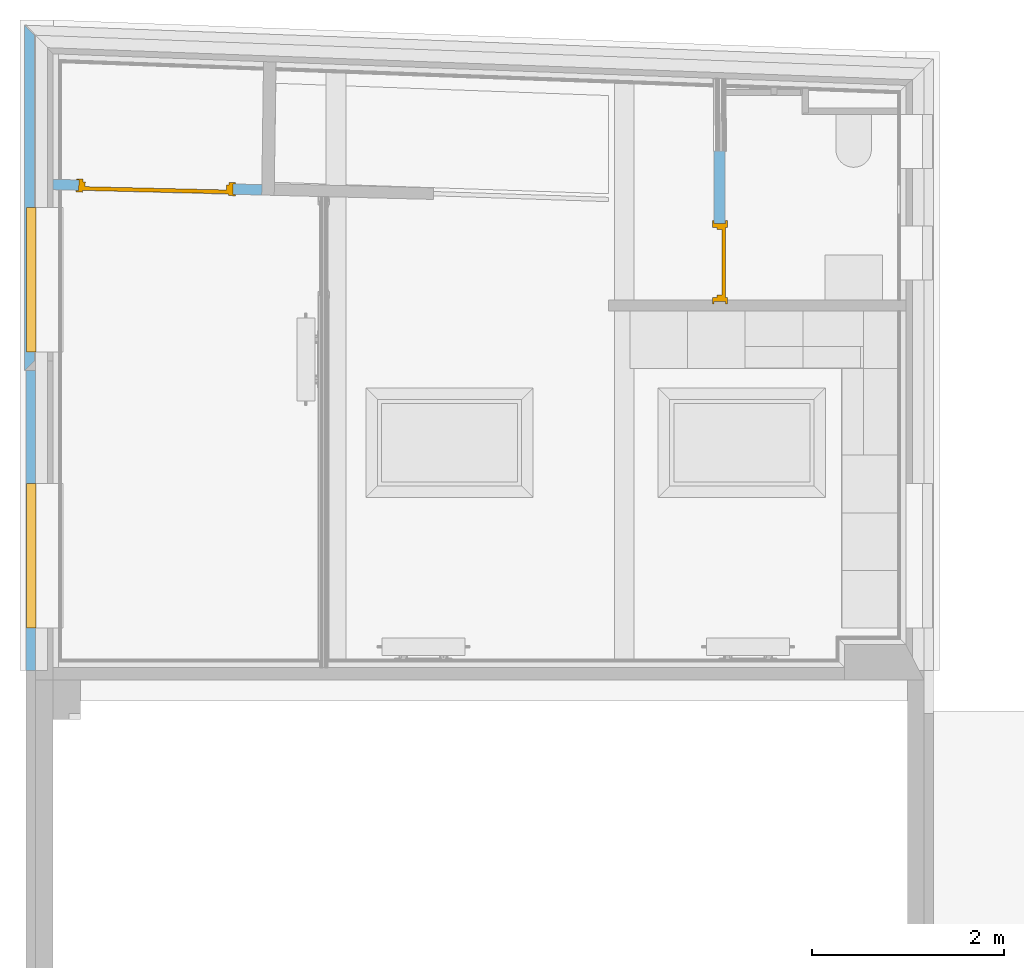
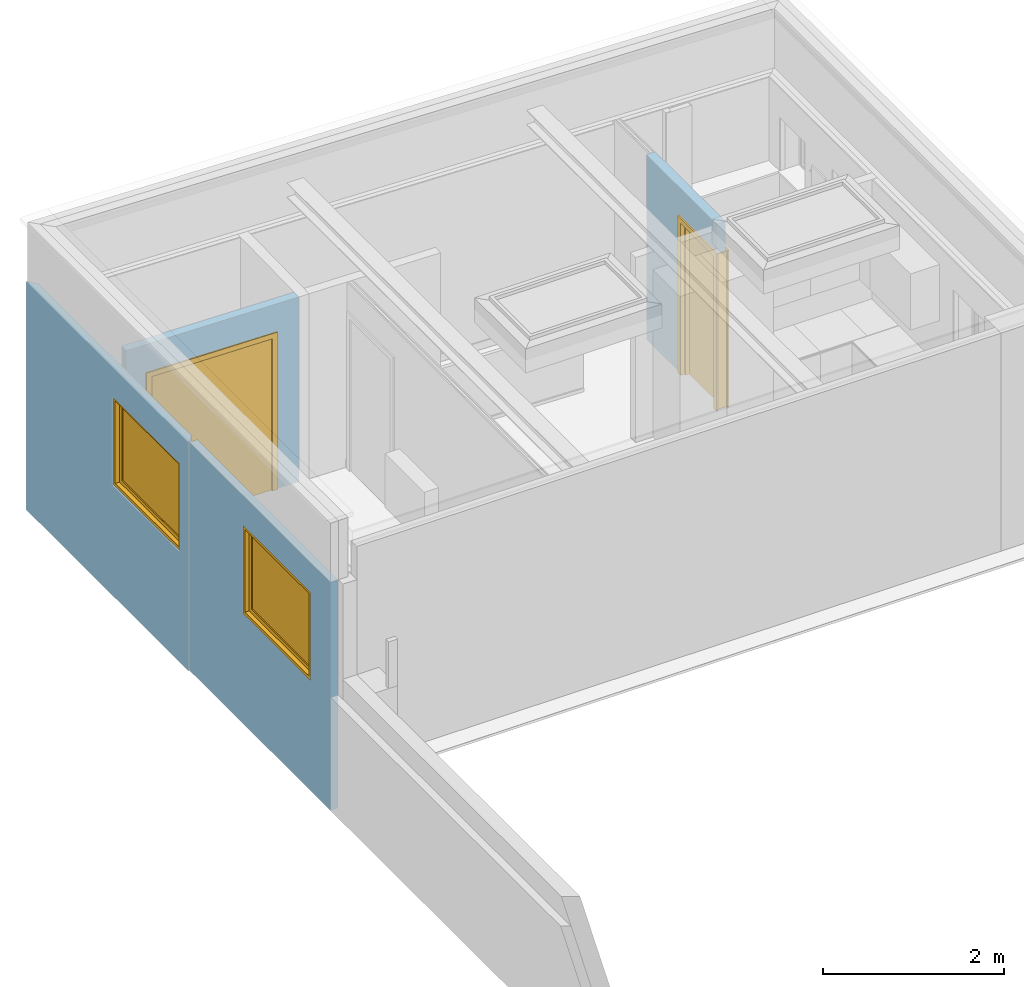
# One storey, part 9 of 22: 2 doors, 2 windows, 4 openings, plus 4 elements that do not belong to this part.
"""IFC2X3 building model written with IfcOpenShell, lengths in metres."""

from ifc_helpers import new_model, entity, si_unit, converted_unit, derived_unit, money_unit, direction, frame, frame_2d, origin_with_axes, place, context, subcontext, project, spatial, polyline, rectangle, outline, extrude, faceted_brep, material, layer, layer_set, layer_usage, type_object, element, fill, save


model = new_model("IFC2X3")

# Units and contexts
model_context = context("Model", 3, precision=1e-05, world=origin_with_axes(), true_north=direction((0.0, 1.0)))
body_context = subcontext(model_context, "Body", "Model", "MODEL_VIEW", scale=1.0)
ifc_project = project(units=[si_unit("LENGTHUNIT", "METRE"), si_unit("AREAUNIT", "SQUARE_METRE"), si_unit("VOLUMEUNIT", "CUBIC_METRE"), si_unit("ABSORBEDDOSEUNIT", "GRAY"), si_unit("AMOUNTOFSUBSTANCEUNIT", "MOLE"), si_unit("DOSEEQUIVALENTUNIT", "SIEVERT"), si_unit("ELECTRICCAPACITANCEUNIT", "FARAD"), si_unit("ELECTRICCHARGEUNIT", "COULOMB"), si_unit("ELECTRICCONDUCTANCEUNIT", "SIEMENS"), si_unit("ELECTRICCURRENTUNIT", "AMPERE"), si_unit("ELECTRICRESISTANCEUNIT", "OHM"), si_unit("ELECTRICVOLTAGEUNIT", "VOLT"), si_unit("ENERGYUNIT", "JOULE"), si_unit("FORCEUNIT", "NEWTON"), si_unit("FREQUENCYUNIT", "HERTZ"), si_unit("ILLUMINANCEUNIT", "LUX"), si_unit("INDUCTANCEUNIT", "HENRY"), si_unit("LUMINOUSFLUXUNIT", "LUMEN"), si_unit("LUMINOUSINTENSITYUNIT", "CANDELA"), si_unit("MAGNETICFLUXDENSITYUNIT", "TESLA"), si_unit("MAGNETICFLUXUNIT", "WEBER"), si_unit("MASSUNIT", "GRAM"), converted_unit("PLANEANGLEUNIT", "degree", entity("IfcReal", 0.0174532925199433), si_unit("PLANEANGLEUNIT", "RADIAN"), dimensions=[0, 0, 0, 0, 0, 0, 0]), si_unit("POWERUNIT", "WATT"), si_unit("PRESSUREUNIT", "PASCAL"), si_unit("RADIOACTIVITYUNIT", "BECQUEREL"), si_unit("SOLIDANGLEUNIT", "STERADIAN"), si_unit("THERMODYNAMICTEMPERATUREUNIT", "KELVIN"), si_unit("TIMEUNIT", "SECOND"), derived_unit("ACCELERATIONUNIT", [(si_unit("LENGTHUNIT", "METRE"), 1), (si_unit("TIMEUNIT", "SECOND"), -2)]), derived_unit("ANGULARVELOCITYUNIT", [(converted_unit("PLANEANGLEUNIT", "degree", entity("IfcReal", 0.0174532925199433), si_unit("PLANEANGLEUNIT", "RADIAN"), dimensions=[0, 0, 0, 0, 0, 0, 0]), 1), (si_unit("TIMEUNIT", "SECOND"), -1)]), derived_unit("CURVATUREUNIT", [(converted_unit("PLANEANGLEUNIT", "degree", entity("IfcReal", 0.0174532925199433), si_unit("PLANEANGLEUNIT", "RADIAN"), dimensions=[0, 0, 0, 0, 0, 0, 0]), 1), (si_unit("LENGTHUNIT", "METRE"), -1)]), derived_unit("DYNAMICVISCOSITYUNIT", [(si_unit("PRESSUREUNIT", "PASCAL"), 1), (si_unit("TIMEUNIT", "SECOND"), 1)]), derived_unit("HEATFLUXDENSITYUNIT", [(si_unit("POWERUNIT", "WATT"), 1), (si_unit("LENGTHUNIT", "METRE"), -2)]), derived_unit("HEATINGVALUEUNIT", [(si_unit("ENERGYUNIT", "JOULE"), 1), (si_unit("MASSUNIT", "GRAM"), -1)]), derived_unit("INTEGERCOUNTRATEUNIT", [(si_unit("TIMEUNIT", "SECOND"), -1)]), derived_unit("IONCONCENTRATIONUNIT", [(si_unit("MASSUNIT", "GRAM"), 1), (si_unit("VOLUMEUNIT", "CUBIC_METRE"), -1)]), derived_unit("ISOTHERMALMOISTURECAPACITYUNIT", [(si_unit("VOLUMEUNIT", "CUBIC_METRE"), 1), (si_unit("MASSUNIT", "GRAM"), -1)]), derived_unit("KINEMATICVISCOSITYUNIT", [(si_unit("AREAUNIT", "SQUARE_METRE"), 1), (si_unit("TIMEUNIT", "SECOND"), -1)]), derived_unit("LINEARFORCEUNIT", [(si_unit("FORCEUNIT", "NEWTON"), 1), (si_unit("LENGTHUNIT", "METRE"), -1)]), derived_unit("LINEARMOMENTUNIT", [(si_unit("FORCEUNIT", "NEWTON"), 1), (si_unit("LENGTHUNIT", "METRE"), -1)]), derived_unit("LINEARSTIFFNESSUNIT", [(si_unit("FORCEUNIT", "NEWTON"), 1), (si_unit("LENGTHUNIT", "METRE"), -1)]), derived_unit("LINEARVELOCITYUNIT", [(si_unit("LENGTHUNIT", "METRE"), 1), (si_unit("TIMEUNIT", "SECOND"), -1)]), derived_unit("LUMINOUSINTENSITYDISTRIBUTIONUNIT", [(si_unit("LUMINOUSINTENSITYUNIT", "CANDELA"), 1), (si_unit("LUMINOUSFLUXUNIT", "LUMEN"), -1)]), derived_unit("MASSDENSITYUNIT", [(si_unit("MASSUNIT", "GRAM"), 1), (si_unit("VOLUMEUNIT", "CUBIC_METRE"), -1)]), derived_unit("MASSFLOWRATEUNIT", [(si_unit("MASSUNIT", "GRAM"), 1), (si_unit("TIMEUNIT", "SECOND"), -1)]), derived_unit("MASSPERLENGTHUNIT", [(si_unit("MASSUNIT", "GRAM"), 1), (si_unit("LENGTHUNIT", "METRE"), -1)]), derived_unit("MODULUSOFELASTICITYUNIT", [(si_unit("FORCEUNIT", "NEWTON"), 1), (si_unit("AREAUNIT", "SQUARE_METRE"), -1)]), derived_unit("MODULUSOFLINEARSUBGRADEREACTIONUNIT", [(si_unit("FORCEUNIT", "NEWTON"), 1), (si_unit("LENGTHUNIT", "METRE"), -2)]), derived_unit("MODULUSOFROTATIONALSUBGRADEREACTIONUNIT", [(si_unit("FORCEUNIT", "NEWTON"), 1), (si_unit("LENGTHUNIT", "METRE"), 1)]), derived_unit("MODULUSOFSUBGRADEREACTIONUNIT", [(si_unit("FORCEUNIT", "NEWTON"), 1), (si_unit("VOLUMEUNIT", "CUBIC_METRE"), -1)]), derived_unit("MOISTUREDIFFUSIVITYUNIT", [(si_unit("VOLUMEUNIT", "CUBIC_METRE"), 1), (si_unit("TIMEUNIT", "SECOND"), -1)]), derived_unit("MOLECULARWEIGHTUNIT", [(si_unit("MASSUNIT", "GRAM"), 1), (si_unit("AMOUNTOFSUBSTANCEUNIT", "MOLE"), -1)]), derived_unit("PLANARFORCEUNIT", [(si_unit("FORCEUNIT", "NEWTON"), 1), (si_unit("LENGTHUNIT", "METRE"), -2)]), derived_unit("ROTATIONALFREQUENCYUNIT", [(si_unit("TIMEUNIT", "SECOND"), -1)]), derived_unit("ROTATIONALMASSUNIT", [(si_unit("MASSUNIT", "GRAM"), 1), (si_unit("LENGTHUNIT", "METRE"), 2)]), derived_unit("ROTATIONALSTIFFNESSUNIT", [(si_unit("FORCEUNIT", "NEWTON"), 1), (si_unit("LENGTHUNIT", "METRE"), 1), (converted_unit("PLANEANGLEUNIT", "degree", entity("IfcReal", 0.0174532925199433), si_unit("PLANEANGLEUNIT", "RADIAN"), dimensions=[0, 0, 0, 0, 0, 0, 0]), -1)]), derived_unit("SECTIONAREAINTEGRALUNIT", [(si_unit("LENGTHUNIT", "METRE"), 5)]), derived_unit("SECTIONMODULUSUNIT", [(si_unit("LENGTHUNIT", "METRE"), 3)]), derived_unit("SHEARMODULUSUNIT", [(si_unit("FORCEUNIT", "NEWTON"), 1), (si_unit("AREAUNIT", "SQUARE_METRE"), -1)]), derived_unit("SOUNDPOWERUNIT", [(si_unit("ENERGYUNIT", "JOULE"), 1), (si_unit("TIMEUNIT", "SECOND"), -1)]), derived_unit("SPECIFICHEATCAPACITYUNIT", [(si_unit("FORCEUNIT", "NEWTON"), 1), (si_unit("MASSUNIT", "GRAM"), -1), (si_unit("THERMODYNAMICTEMPERATUREUNIT", "KELVIN"), -1)]), derived_unit("TEMPERATUREGRADIENTUNIT", [(si_unit("THERMODYNAMICTEMPERATUREUNIT", "KELVIN"), 1), (si_unit("LENGTHUNIT", "METRE"), -1)]), derived_unit("THERMALADMITTANCEUNIT", [(si_unit("POWERUNIT", "WATT"), 1), (si_unit("AREAUNIT", "SQUARE_METRE"), -1), (si_unit("THERMODYNAMICTEMPERATUREUNIT", "KELVIN"), -1)]), derived_unit("THERMALCONDUCTANCEUNIT", [(si_unit("POWERUNIT", "WATT"), 1), (si_unit("LENGTHUNIT", "METRE"), -1), (si_unit("THERMODYNAMICTEMPERATUREUNIT", "KELVIN"), -1)]), derived_unit("THERMALEXPANSIONCOEFFICIENTUNIT", [(si_unit("THERMODYNAMICTEMPERATUREUNIT", "KELVIN"), -1)]), derived_unit("THERMALRESISTANCEUNIT", [(si_unit("AREAUNIT", "SQUARE_METRE"), 1), (si_unit("POWERUNIT", "WATT"), -1)]), derived_unit("THERMALTRANSMITTANCEUNIT", [(si_unit("POWERUNIT", "WATT"), 1), (si_unit("AREAUNIT", "SQUARE_METRE"), -1), (si_unit("THERMODYNAMICTEMPERATUREUNIT", "KELVIN"), -1)]), derived_unit("TORQUEUNIT", [(si_unit("FORCEUNIT", "NEWTON"), 1), (si_unit("LENGTHUNIT", "METRE"), 1)]), derived_unit("VAPORPERMEABILITYUNIT", [(si_unit("MASSUNIT", "GRAM"), 1), (si_unit("TIMEUNIT", "SECOND"), -1)]), derived_unit("VOLUMETRICFLOWRATEUNIT", [(si_unit("VOLUMEUNIT", "CUBIC_METRE"), 1), (si_unit("TIMEUNIT", "SECOND"), -1)]), derived_unit("WARPINGCONSTANTUNIT", [(si_unit("LENGTHUNIT", "METRE"), 6)]), derived_unit("WARPINGMOMENTUNIT", [(si_unit("FORCEUNIT", "NEWTON"), 1), (si_unit("LENGTHUNIT", "METRE"), 2)]), money_unit("GBP")], contexts=[model_context])

# Site, building, storey
site_placement = place(None, origin_with_axes())
site = spatial("IfcSite", under=ifc_project, at=site_placement, Name="Site", CompositionType="ELEMENT")
building_placement = place(site_placement, origin_with_axes())
building = spatial("IfcBuilding", under=site, at=building_placement, Name="Building01", CompositionType="ELEMENT")
storey_placement = place(building_placement, frame((0.0, 0.0, 2.6), z_axis=(0.0, 0.0, 1.0), x_axis=(1.0, 0.0, 0.0)))
storey = spatial("IfcBuildingStorey", under=building, at=storey_placement, Name="MF", CompositionType="ELEMENT", Elevation=2.6)

# Wall, opening
ifc_material_1 = material(Name="A_BSUK_WallsExternal_Brick")
ifc_layer_1 = layer(ifc_material_1, 0.1, ventilated=False)
ifc_layer_set_1 = layer_set([ifc_layer_1])
ifc_layer_usage_1 = layer_usage(ifc_layer_set_1, "AXIS2", "POSITIVE", 0.0)
wall_type_1 = type_object("IfcWallType", Name="A-Walls-ExternalBrick", PredefinedType="NOTDEFINED")
wall_1_placement = place(storey_placement, frame((-0.013684, 21.61325, 0.0), z_axis=(0.0, 0.0, 1.0), x_axis=(0.0, -1.0, 0.0)))
wall_1 = element("IfcWallStandardCase", 1, at=wall_1_placement, inside=storey, type_object=wall_type_1, material=ifc_layer_usage_1, Name="A-Walls-ExternalBrick", ObjectType="A-Walls-ExternalBrick", context=body_context, shape_type="SweptSolid", body=[
    extrude(outline(polyline([(3.493021, 0.1), (0.103779, 0.1), (0.0, 0.0), (3.593021, 0.0), (3.493021, 0.1)])), origin_with_axes(), (0.0, 0.0, 1.0), 3.085),
])
opening_1_placement = place(wall_1_placement, frame((1.899002, 0.0, 1.485), z_axis=(0.0, 0.0, 1.0), x_axis=(1.0, 0.0, 0.0)))
opening_1 = element("IfcOpeningElement", 2, at=opening_1_placement, cuts=wall_1, Name="Opening", ObjectType="Opening", context=body_context, shape_type="SweptSolid", body=[
    extrude(rectangle(XDim=1.2, YDim=1.5, at=frame_2d((-0.75, 0.6), x_axis=(0.0, -1.0))), frame((0.0, 0.0, 0.0), z_axis=(0.0, 1.0, 0.0), x_axis=(-1.0, 0.0, 0.0)), (0.0, 0.0, 1.0), 0.1),
])

# Space
space_1_placement = place(storey_placement, frame((0.352777, 15.705689, 0.606989), z_axis=(0.0, 0.0, 1.0), x_axis=(0.0, -1.0, 0.0)))
space_1 = spatial("IfcSpace", under=storey, at=space_1_placement, Name="2", CompositionType="ELEMENT", InteriorOrExteriorSpace="NOTDEFINED")

# Window
ifc_material_2 = material(Name="A_BSUK_Windows")
window_style = type_object("IfcWindowStyle", Name="A-Awning", ConstructionType="NOTDEFINED", OperationType="USERDEFINED", ParameterTakesPrecedence=False, Sizeable=False)
window_1_placement = place(opening_1_placement, frame((1.5, 0.142762, 0.0), z_axis=(0.0, 0.0, 1.0), x_axis=(-1.0, 0.0, 0.0)))
window_1 = element("IfcWindow", 3, at=window_1_placement, inside=space_1, type_object=window_style, material=ifc_material_2, Name="0.19", ObjectType="A-Awning", OverallHeight=1.2, OverallWidth=1.5, context=body_context, shape_type="Brep", body=[
    faceted_brep([(1.458, 0.1254, 0.042), (0.042, 0.1254, 0.042), (0.042, 0.0254, 0.042), (1.458, 0.0254, 0.042), (1.458, 0.1254, 1.158), (1.458, 0.0254, 1.158), (0.042, 0.1254, 1.158), (0.042, 0.0254, 1.158), (1.5, 0.0254, 0.0), (1.5, 0.0254, 1.2), (0.0, 0.0254, 1.2), (0.0, 0.0254, 0.0), (1.5, 0.1254, 1.2), (0.0, 0.1254, 1.2), (0.0, 0.1254, 0.0), (1.5, 0.1254, 0.0)], [[[0, 1, 2, 3]], [[4, 0, 3, 5]], [[6, 4, 5, 7]], [[8, 9, 10, 11], [3, 2, 7, 5]], [[1, 6, 7, 2]], [[10, 9, 12, 13]], [[8, 11, 14, 15]], [[9, 8, 15, 12]], [[15, 14, 13, 12], [0, 4, 6, 1]], [[11, 10, 13, 14]]]),
    faceted_brep([(1.4072, 0.0704, 0.0928), (0.0928, 0.0704, 0.0928), (0.0928, 0.0354, 0.0928), (1.4072, 0.0354, 0.0928), (1.4072, 0.0704, 1.1072), (1.4072, 0.0354, 1.1072), (0.0928, 0.0704, 1.1072), (0.0928, 0.0354, 1.1072), (1.458, 0.0704, 0.042), (0.042, 0.0704, 0.042), (0.042, 0.0704, 1.158), (1.458, 0.0704, 1.158), (0.042, 0.0354, 1.158), (1.458, 0.0354, 1.158), (0.042, 0.0354, 0.042), (1.458, 0.0354, 0.042)], [[[0, 1, 2, 3]], [[4, 0, 3, 5]], [[6, 4, 5, 7]], [[8, 9, 10, 11], [0, 4, 6, 1]], [[12, 13, 11, 10]], [[14, 12, 10, 9]], [[15, 14, 9, 8]], [[13, 15, 8, 11]], [[15, 13, 12, 14], [3, 2, 7, 5]], [[1, 6, 7, 2]]]),
    faceted_brep([(0.0928, 0.049725, 1.1072), (0.0928, 0.056075, 1.1072), (0.0928, 0.056075, 0.0928), (0.0928, 0.049725, 0.0928), (1.4072, 0.049725, 0.0928), (1.4072, 0.056075, 0.0928), (1.4072, 0.056075, 1.1072), (1.4072, 0.049725, 1.1072)], [[[0, 1, 2, 3]], [[4, 5, 6, 7]], [[7, 6, 1, 0]], [[3, 4, 7, 0]], [[3, 2, 5, 4]], [[1, 6, 5, 2]]]),
])

fill(opening_1, window_1)

# Wall, opening, window
wall_2_placement = place(storey_placement, frame((0.000679, 18.020229, 0.0), z_axis=(0.0, 0.0, 1.0), x_axis=(0.0, -1.0, 0.0)))
wall_2 = element("IfcWallStandardCase", 4, at=wall_2_placement, inside=storey, type_object=wall_type_1, material=ifc_layer_usage_1, Name="A-Walls-ExternalBrick", ObjectType="A-Walls-ExternalBrick", context=body_context, shape_type="SweptSolid", body=[
    extrude(rectangle(XDim=3.120229, YDim=0.1, at=frame_2d((1.560114, 0.05), x_axis=(-1.0, 0.0))), origin_with_axes(), (0.0, 0.0, 1.0), 3.085),
])
opening_2_placement = place(wall_2_placement, frame((1.177439, 0.0, 1.485), z_axis=(0.0, 0.0, 1.0), x_axis=(1.0, 0.0, 0.0)))
opening_2 = element("IfcOpeningElement", 5, at=opening_2_placement, cuts=wall_2, Name="Opening", ObjectType="Opening", context=body_context, shape_type="SweptSolid", body=[
    extrude(rectangle(XDim=1.2, YDim=1.5, at=frame_2d((-0.75, 0.6), x_axis=(0.0, -1.0))), frame((0.0, 0.0, 0.0), z_axis=(0.0, 1.0, 0.0), x_axis=(-1.0, 0.0, 0.0)), (0.0, 0.0, 1.0), 0.1),
])
window_2_placement = place(opening_2_placement, frame((1.5, 0.1284, 0.0), z_axis=(0.0, 0.0, 1.0), x_axis=(-1.0, 0.0, 0.0)))
window_2 = element("IfcWindow", 6, at=window_2_placement, inside=space_1, type_object=window_style, material=ifc_material_2, Name="0.20", ObjectType="A-Awning", OverallHeight=1.2, OverallWidth=1.5, context=body_context, shape_type="Brep", body=[
    faceted_brep([(1.458, 0.1254, 0.042), (0.042, 0.1254, 0.042), (0.042, 0.0254, 0.042), (1.458, 0.0254, 0.042), (1.458, 0.1254, 1.158), (1.458, 0.0254, 1.158), (0.042, 0.1254, 1.158), (0.042, 0.0254, 1.158), (1.5, 0.0254, 0.0), (1.5, 0.0254, 1.2), (0.0, 0.0254, 1.2), (0.0, 0.0254, 0.0), (1.5, 0.1254, 1.2), (0.0, 0.1254, 1.2), (0.0, 0.1254, 0.0), (1.5, 0.1254, 0.0)], [[[0, 1, 2, 3]], [[4, 0, 3, 5]], [[6, 4, 5, 7]], [[8, 9, 10, 11], [3, 2, 7, 5]], [[1, 6, 7, 2]], [[10, 9, 12, 13]], [[8, 11, 14, 15]], [[9, 8, 15, 12]], [[15, 14, 13, 12], [0, 4, 6, 1]], [[11, 10, 13, 14]]]),
    faceted_brep([(1.4072, 0.0704, 0.0928), (0.0928, 0.0704, 0.0928), (0.0928, 0.0354, 0.0928), (1.4072, 0.0354, 0.0928), (1.4072, 0.0704, 1.1072), (1.4072, 0.0354, 1.1072), (0.0928, 0.0704, 1.1072), (0.0928, 0.0354, 1.1072), (1.458, 0.0704, 0.042), (0.042, 0.0704, 0.042), (0.042, 0.0704, 1.158), (1.458, 0.0704, 1.158), (0.042, 0.0354, 1.158), (1.458, 0.0354, 1.158), (0.042, 0.0354, 0.042), (1.458, 0.0354, 0.042)], [[[0, 1, 2, 3]], [[4, 0, 3, 5]], [[6, 4, 5, 7]], [[8, 9, 10, 11], [0, 4, 6, 1]], [[12, 13, 11, 10]], [[14, 12, 10, 9]], [[15, 14, 9, 8]], [[13, 15, 8, 11]], [[15, 13, 12, 14], [3, 2, 7, 5]], [[1, 6, 7, 2]]]),
    faceted_brep([(0.0928, 0.049725, 1.1072), (0.0928, 0.056075, 1.1072), (0.0928, 0.056075, 0.0928), (0.0928, 0.049725, 0.0928), (1.4072, 0.049725, 0.0928), (1.4072, 0.056075, 0.0928), (1.4072, 0.056075, 1.1072), (1.4072, 0.049725, 1.1072)], [[[0, 1, 2, 3]], [[4, 5, 6, 7]], [[7, 6, 1, 0]], [[3, 4, 7, 0]], [[3, 2, 5, 4]], [[1, 6, 5, 2]]]),
])
fill(opening_2, window_2)

# Wall, opening
ifc_material_3 = material(Name="A_BSUK_WallsInternal")
ifc_layer_2 = layer(ifc_material_3, 0.108, ventilated=False)
ifc_layer_set_2 = layer_set([ifc_layer_2])
ifc_layer_usage_2 = layer_usage(ifc_layer_set_2, "AXIS2", "POSITIVE", 0.0)
wall_type_2 = type_object("IfcWallType", Name="A-Walls-Internal", PredefinedType="NOTDEFINED")
wall_3_placement = place(storey_placement, frame((0.280897, 19.90157, 0.585), z_axis=(0.0, 0.0, 1.0), x_axis=(0.99967157, -0.02562735, 0.0)))
wall_3 = element("IfcWallStandardCase", 7, at=wall_3_placement, inside=storey, type_object=wall_type_2, material=ifc_layer_usage_2, Name="A-Walls-Internal", ObjectType="A-Walls-Internal", context=body_context, shape_type="SweptSolid", body=[
    extrude(outline(polyline([(2.171217, 0.108), (-0.002769, 0.108), (0.0, 0.0), (2.172534, 0.0), (2.171217, 0.108)])), origin_with_axes(), (0.0, 0.0, 1.0), 2.5),
])
opening_3_placement = place(wall_3_placement, frame((0.266957, 0.0, 0.0), z_axis=(0.0, 0.0, 1.0), x_axis=(1.0, 0.0, 0.0)))
opening_3 = element("IfcOpeningElement", 8, at=opening_3_placement, cuts=wall_3, Name="Opening", ObjectType="Opening", context=body_context, shape_type="Brep", body=[
    faceted_brep([(1.604261, 0.0, 0.0), (1.604261, 0.0, 2.1), (0.000256, 0.0, 2.1), (0.000256, 0.0, 0.0), (1.604005, 0.108, 2.1), (1.604005, 0.108, 0.0), (0.0, 0.108, 0.0), (0.0, 0.108, 2.1)], [[[0, 1, 2, 3]], [[4, 5, 6, 7]], [[5, 0, 3, 6]], [[4, 1, 0, 5]], [[7, 2, 1, 4]], [[6, 3, 2, 7]]]),
])

# Space
space_2_placement = place(storey_placement, frame((0.352897, 21.240404, 0.585), z_axis=(0.0, 0.0, 1.0), x_axis=(-1.921e-05, -1.0, 0.0)))
space_2 = spatial("IfcSpace", under=storey, at=space_2_placement, Name="01", CompositionType="ELEMENT", InteriorOrExteriorSpace="NOTDEFINED")

# Door
ifc_material_4 = material(Name="A_BSUK_Doors")
door_style_1 = type_object("IfcDoorStyle", Name="A-Doors-DoubleFlush", ConstructionType="USERDEFINED", OperationType="DOUBLE_DOOR_SINGLE_SWING", ParameterTakesPrecedence=False, Sizeable=False)
door_1_placement = place(opening_3_placement, frame((1.562252, 0.003705, 0.0), z_axis=(0.0, 0.0, 1.0), x_axis=(-0.99999719, -0.00237186, 0.0)))
door_1 = element("IfcDoor", 9, at=door_1_placement, inside=space_2, type_object=door_style_1, material=ifc_material_4, Name="0.23", ObjectType="A-Doors-DoubleFlush", OverallHeight=2.12700000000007, OverallWidth=1.65800000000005, context=body_context, shape_type="Brep", body=[
    faceted_brep([(1.52, -0.119, 0.0), (1.589, -0.119, 0.0), (1.589, -0.119, 2.127), (-0.069, -0.119, 2.127), (-0.069, -0.119, 0.0), (0.0, -0.119, 0.0), (0.0, -0.119, 2.058), (1.52, -0.119, 2.058), (-0.069, -0.1, 0.0), (-0.069, -0.1, 2.127), (1.589, -0.1, 2.127), (1.589, -0.1, 0.0), (1.52, 0.019, 0.0), (1.589, 0.019, 0.0), (1.589, 0.0, 0.0), (1.562, 0.0, 0.0), (1.562, -0.1, 0.0), (1.52, 0.019, 2.058), (0.0, 0.019, 2.058), (0.0, 0.019, 0.0), (-0.069, 0.019, 0.0), (-0.069, 0.019, 2.127), (1.589, 0.019, 2.127), (1.589, 0.0, 2.127), (1.562, -0.1, 2.1), (1.562, 0.0, 2.1), (-0.042, -0.1, 2.1), (-0.042, 0.0, 2.1), (-0.042, -0.1, 0.0), (-0.042, 0.0, 0.0), (-0.069, 0.0, 2.127), (-0.069, 0.0, 0.0)], [[[0, 1, 2, 3, 4, 5, 6, 7]], [[8, 4, 3, 9]], [[10, 2, 1, 11]], [[9, 3, 2, 10]], [[12, 13, 14, 15, 16, 11, 1, 0]], [[7, 17, 12, 0]], [[6, 18, 17, 7]], [[18, 19, 20, 21, 22, 13, 12, 17]], [[5, 19, 18, 6]], [[13, 22, 23, 14]], [[24, 16, 15, 25]], [[26, 24, 25, 27]], [[11, 16, 24, 26, 28, 8, 9, 10]], [[27, 29, 28, 26]], [[25, 15, 14, 23, 30, 31, 29, 27]], [[5, 4, 8, 28, 29, 31, 20, 19]], [[30, 21, 20, 31]], [[23, 22, 21, 30]]]),
    faceted_brep([(0.0, -0.09, 2.058), (0.0, -0.04, 2.058), (0.0, -0.04, 0.0), (0.0, -0.09, 0.0), (1.495, -0.09, 0.0), (1.52, -0.09, 0.0), (1.52, -0.09, 2.058), (0.025, -0.09, 0.0), (0.025, -0.09, 2.033), (1.495, -0.09, 2.033), (1.495, -0.04, 0.0), (1.52, -0.04, 0.0), (1.52, -0.04, 2.058), (0.025, -0.04, 2.033), (0.025, -0.04, 0.0), (1.495, -0.04, 2.033)], [[[0, 1, 2, 3]], [[4, 5, 6, 0, 3, 7, 8, 9]], [[10, 11, 5, 4]], [[6, 12, 1, 0]], [[5, 11, 12, 6]], [[13, 14, 2, 1, 12, 11, 10, 15]], [[7, 14, 13, 8]], [[7, 3, 2, 14]], [[9, 15, 10, 4]], [[8, 13, 15, 9]]]),
    faceted_brep([(1.52, -0.04, 0.0), (1.52, 0.0, 0.0), (1.52, 0.0, 2.058), (1.52, -0.04, 2.058), (0.76, -0.04, 2.058), (0.76, 0.0, 2.058), (0.76, 0.0, 0.0), (0.76, -0.04, 0.0)], [[[0, 1, 2, 3]], [[4, 5, 6, 7]], [[7, 6, 1, 0]], [[3, 4, 7, 0]], [[3, 2, 5, 4]], [[1, 6, 5, 2]]]),
    faceted_brep([(0.76, -0.04, 0.0), (0.76, 0.0, 0.0), (0.76, 0.0, 2.058), (0.76, -0.04, 2.058), (0.0, -0.04, 2.058), (0.0, 0.0, 2.058), (0.0, 0.0, 0.0), (0.0, -0.04, 0.0)], [[[0, 1, 2, 3]], [[4, 5, 6, 7]], [[7, 6, 1, 0]], [[3, 4, 7, 0]], [[3, 2, 5, 4]], [[1, 6, 5, 2]]]),
])

fill(opening_3, door_1)

# Wall, opening, door
ifc_layer_3 = layer(ifc_material_3, 0.113, ventilated=False)
ifc_layer_set_3 = layer_set([ifc_layer_3])
ifc_layer_usage_3 = layer_usage(ifc_layer_set_3, "AXIS2", "POSITIVE", 0.0)
wall_4_placement = place(storey_placement, frame((7.275966, 18.752607, 0.585), z_axis=(0.0, 0.0, 1.0), x_axis=(-0.00272299, 0.99999629, 0.0)))
wall_4 = element("IfcWallStandardCase", 10, at=wall_4_placement, inside=storey, type_object=wall_type_2, material=ifc_layer_usage_3, Name="A-Walls-Internal", ObjectType="A-Walls-Internal", context=body_context, shape_type="SweptSolid", body=[
    extrude(outline(polyline([(0.000308, 0.113), (0.0, 0.0), (1.549119, 0.0), (1.549119, 0.113), (0.000308, 0.113)])), origin_with_axes(), (0.0, 0.0, 1.0), 2.5),
])
opening_4_placement = place(wall_4_placement, origin_with_axes())
opening_4 = element("IfcOpeningElement", 11, at=opening_4_placement, cuts=wall_4, Name="Opening", ObjectType="Opening", context=body_context, shape_type="Brep", body=[
    faceted_brep([(0.799813, 0.113, 2.1), (0.799813, 0.113, 0.0), (0.000308, 0.113, 0.0), (0.000308, 0.113, 2.1), (0.0, 0.0, 2.1), (0.0, 0.0, 0.0), (0.799506, 0.0, 0.0), (0.799506, 0.0, 2.1)], [[[0, 1, 2, 3]], [[4, 3, 2, 5]], [[6, 7, 4, 5]], [[1, 6, 5, 2]], [[0, 7, 6, 1]], [[4, 7, 0, 3]]]),
])
door_style_2 = type_object("IfcDoorStyle", Name="A-Doors-SingleFlush", ConstructionType="USERDEFINED", OperationType="SINGLE_SWING_RIGHT", ParameterTakesPrecedence=False, Sizeable=False)
door_2_placement = place(opening_4_placement, frame((0.75749, -0.005704, 0.0), z_axis=(0.0, 0.0, 1.0), x_axis=(-0.99999629, 0.00272299, 0.0)))
door_2 = element("IfcDoor", 12, at=door_2_placement, inside=space_2, type_object=door_style_2, material=ifc_material_4, Name="0.21", ObjectType="A-Doors-SingleFlush", OverallHeight=2.12700000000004, OverallWidth=0.868000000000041, context=body_context, shape_type="Brep", body=[
    faceted_brep([(0.73, -0.139, 0.0), (0.799, -0.139, 0.0), (0.799, -0.139, 2.127), (-0.069, -0.139, 2.127), (-0.069, -0.139, 0.0), (0.0, -0.139, 0.0), (0.0, -0.139, 2.058), (0.73, -0.139, 2.058), (-0.069, -0.12, 0.0), (-0.069, -0.12, 2.127), (0.799, -0.12, 2.127), (0.799, -0.12, 0.0), (0.73, 0.019, 0.0), (0.799, 0.019, 0.0), (0.799, 0.0, 0.0), (0.772, 0.0, 0.0), (0.772, -0.12, 0.0), (0.73, 0.019, 2.058), (0.0, 0.019, 2.058), (0.0, 0.019, 0.0), (-0.069, 0.019, 0.0), (-0.069, 0.019, 2.127), (0.799, 0.019, 2.127), (0.799, 0.0, 2.127), (0.772, -0.12, 2.1), (0.772, 0.0, 2.1), (-0.042, -0.12, 2.1), (-0.042, 0.0, 2.1), (-0.042, -0.12, 0.0), (-0.042, 0.0, 0.0), (-0.069, 0.0, 2.127), (-0.069, 0.0, 0.0)], [[[0, 1, 2, 3, 4, 5, 6, 7]], [[8, 4, 3, 9]], [[10, 2, 1, 11]], [[9, 3, 2, 10]], [[12, 13, 14, 15, 16, 11, 1, 0]], [[7, 17, 12, 0]], [[6, 18, 17, 7]], [[18, 19, 20, 21, 22, 13, 12, 17]], [[5, 19, 18, 6]], [[13, 22, 23, 14]], [[24, 16, 15, 25]], [[26, 24, 25, 27]], [[11, 16, 24, 26, 28, 8, 9, 10]], [[27, 29, 28, 26]], [[25, 15, 14, 23, 30, 31, 29, 27]], [[5, 4, 8, 28, 29, 31, 20, 19]], [[30, 21, 20, 31]], [[23, 22, 21, 30]]]),
    faceted_brep([(0.0, -0.09, 2.058), (0.0, -0.04, 2.058), (0.0, -0.04, 0.0), (0.0, -0.09, 0.0), (0.705, -0.09, 0.0), (0.73, -0.09, 0.0), (0.73, -0.09, 2.058), (0.025, -0.09, 0.0), (0.025, -0.09, 2.033), (0.705, -0.09, 2.033), (0.705, -0.04, 0.0), (0.73, -0.04, 0.0), (0.73, -0.04, 2.058), (0.025, -0.04, 2.033), (0.025, -0.04, 0.0), (0.705, -0.04, 2.033)], [[[0, 1, 2, 3]], [[4, 5, 6, 0, 3, 7, 8, 9]], [[10, 11, 5, 4]], [[6, 12, 1, 0]], [[5, 11, 12, 6]], [[13, 14, 2, 1, 12, 11, 10, 15]], [[7, 14, 13, 8]], [[7, 3, 2, 14]], [[9, 15, 10, 4]], [[8, 13, 15, 9]]]),
    faceted_brep([(0.73, -0.04, 0.0), (0.73, 0.0, 0.0), (0.73, 0.0, 2.058), (0.73, -0.04, 2.058), (0.0, -0.04, 2.058), (0.0, 0.0, 2.058), (0.0, 0.0, 0.0), (0.0, -0.04, 0.0)], [[[0, 1, 2, 3]], [[4, 5, 6, 7]], [[7, 6, 1, 0]], [[3, 4, 7, 0]], [[3, 2, 5, 4]], [[1, 6, 5, 2]]]),
])
fill(opening_4, door_2)

save(model, "model.ifc")
